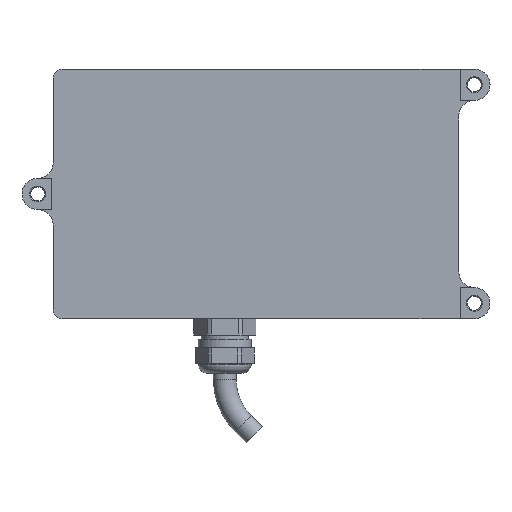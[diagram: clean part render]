
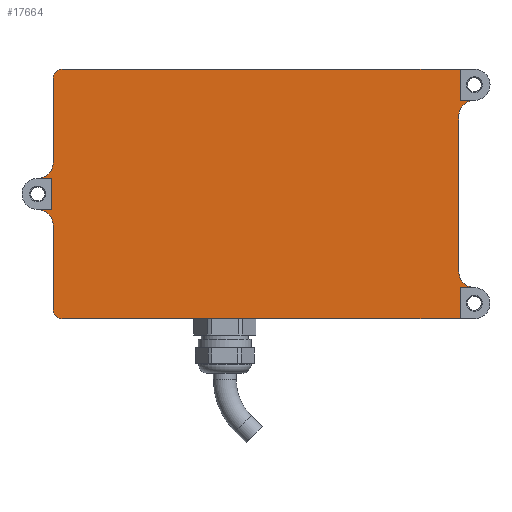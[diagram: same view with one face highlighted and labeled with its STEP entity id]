
A CAD part, left-side view. The second image highlights one B-rep face of the part: STEP entity #17664.
In plain terms, the highlighted planar face has unit normal (-1, 0, 0) as drawn and (0, 0, 1) by its records, which use the part's own axes.
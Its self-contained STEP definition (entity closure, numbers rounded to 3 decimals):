
#59 = CARTESIAN_POINT ( 'NONE',  ( -80., 135., 34.2 ) ) ;
#67 = DIRECTION ( 'NONE',  ( 0., -1., 0. ) ) ;
#108 = CARTESIAN_POINT ( 'NONE',  ( -70., 0., 34.2 ) ) ;
#109 = DIRECTION ( 'NONE',  ( -1., 0., 0. ) ) ;
#133 = CARTESIAN_POINT ( 'NONE',  ( 0., 135., 34.2 ) ) ;
#134 = DIRECTION ( 'NONE',  ( 0., 1., 0. ) ) ;
#138 = CARTESIAN_POINT ( 'NONE',  ( 0., 130., 34.2 ) ) ;
#157 = DIRECTION ( 'NONE',  ( 1., 0., 0. ) ) ;
#164 = CARTESIAN_POINT ( 'NONE',  ( -80., 130., 34.2 ) ) ;
#165 = DIRECTION ( 'NONE',  ( 1., 0., 0. ) ) ;
#188 = CARTESIAN_POINT ( 'NONE',  ( -77., 127., 34.2 ) ) ;
#189 = DIRECTION ( 'NONE',  ( 0., 0., 1. ) ) ;
#190 = DIRECTION ( 'NONE',  ( -1., 0., 0. ) ) ;
#202 = CARTESIAN_POINT ( 'NONE',  ( -3., 127., 34.2 ) ) ;
#203 = DIRECTION ( 'NONE',  ( 0., 0., 1. ) ) ;
#204 = DIRECTION ( 'NONE',  ( -1., 0., 0. ) ) ;
#218 = CARTESIAN_POINT ( 'NONE',  ( -15., -5., 34.2 ) ) ;
#220 = DIRECTION ( 'NONE',  ( 0., 0., 1. ) ) ;
#222 = DIRECTION ( 'NONE',  ( -1., 0., 0. ) ) ;
#238 = CARTESIAN_POINT ( 'NONE',  ( -65., -5., 34.2 ) ) ;
#240 = DIRECTION ( 'NONE',  ( 0., 0., 1. ) ) ;
#241 = DIRECTION ( 'NONE',  ( -1., 0., 0. ) ) ;
#265 = CARTESIAN_POINT ( 'NONE',  ( -30., 135., 34.2 ) ) ;
#266 = DIRECTION ( 'NONE',  ( 0., 0., 1. ) ) ;
#268 = DIRECTION ( 'NONE',  ( -1., 0., 0. ) ) ;
#297 = CARTESIAN_POINT ( 'NONE',  ( -50., 135., 34.2 ) ) ;
#298 = DIRECTION ( 'NONE',  ( 0., 0., 1. ) ) ;
#300 = DIRECTION ( 'NONE',  ( -1., 0., 0. ) ) ;
#351 = DIRECTION ( 'NONE',  ( 0., 1., 0. ) ) ;
#353 = CARTESIAN_POINT ( 'NONE',  ( -10., -0.4, 34.2 ) ) ;
#354 = DIRECTION ( 'NONE',  ( 1., 0., 0. ) ) ;
#356 = CARTESIAN_POINT ( 'NONE',  ( -10., -5., 34.2 ) ) ;
#362 = CARTESIAN_POINT ( 'NONE',  ( -35., 135., 34.2 ) ) ;
#365 = CARTESIAN_POINT ( 'NONE',  ( -45., 130.4, 34.2 ) ) ;
#367 = CARTESIAN_POINT ( 'NONE',  ( -45., 135., 34.2 ) ) ;
#368 = DIRECTION ( 'NONE',  ( 0., -1., 0. ) ) ;
#370 = CARTESIAN_POINT ( 'NONE',  ( -80., -0.4, 34.2 ) ) ;
#372 = DIRECTION ( 'NONE',  ( -1., 0., 0. ) ) ;
#375 = DIRECTION ( 'NONE',  ( 0., 1., 0. ) ) ;
#378 = DIRECTION ( 'NONE',  ( 0., -1., 0. ) ) ;
#380 = DIRECTION ( 'NONE',  ( 1., 0., 0. ) ) ;
#381 = CARTESIAN_POINT ( 'NONE',  ( -70., -5., 34.2 ) ) ;
#5241 = CARTESIAN_POINT ( 'NONE',  ( -35., -0.4, 34.2 ) ) ;
#5245 = PLANE ( 'NONE',  #12939 ) ;
#5247 = DIRECTION ( 'NONE',  ( 0., 0., -1. ) ) ;
#5248 = DIRECTION ( 'NONE',  ( -1., 0., 0. ) ) ;
#7405 = CARTESIAN_POINT ( 'NONE',  ( -15., 0., 34.2 ) ) ;
#7420 = CARTESIAN_POINT ( 'NONE',  ( 0., -0.4, 34.2 ) ) ;
#7426 = CARTESIAN_POINT ( 'NONE',  ( -45., 135., 34.2 ) ) ;
#7427 = CARTESIAN_POINT ( 'NONE',  ( -77., 130., 34.2 ) ) ;
#7437 = CARTESIAN_POINT ( 'NONE',  ( -35., 135., 34.2 ) ) ;
#7450 = CARTESIAN_POINT ( 'NONE',  ( -80., 127., 34.2 ) ) ;
#9051 = CARTESIAN_POINT ( 'NONE',  ( -80., -0.4, 34.2 ) ) ;
#9484 = CARTESIAN_POINT ( 'NONE',  ( -65., 0., 34.2 ) ) ;
#9505 = CARTESIAN_POINT ( 'NONE',  ( -30., 130., 34.2 ) ) ;
#9508 = CARTESIAN_POINT ( 'NONE',  ( 0., 127., 34.2 ) ) ;
#9519 = CARTESIAN_POINT ( 'NONE',  ( -35., 130.4, 34.2 ) ) ;
#9520 = CARTESIAN_POINT ( 'NONE',  ( -70., -5., 34.2 ) ) ;
#9533 = CARTESIAN_POINT ( 'NONE',  ( -70., -0.4, 34.2 ) ) ;
#9534 = CARTESIAN_POINT ( 'NONE',  ( -50., 130., 34.2 ) ) ;
#9546 = CARTESIAN_POINT ( 'NONE',  ( -10., -0.4, 34.2 ) ) ;
#9569 = CARTESIAN_POINT ( 'NONE',  ( -3., 130., 34.2 ) ) ;
#9575 = CARTESIAN_POINT ( 'NONE',  ( -10., -5., 34.2 ) ) ;
#9582 = CARTESIAN_POINT ( 'NONE',  ( -45., 130.4, 34.2 ) ) ;
#9811 = VERTEX_POINT ( 'NONE', #7405 ) ;
#9835 = VERTEX_POINT ( 'NONE', #7420 ) ;
#9854 = VERTEX_POINT ( 'NONE', #7426 ) ;
#9861 = VERTEX_POINT ( 'NONE', #7427 ) ;
#9883 = VERTEX_POINT ( 'NONE', #7437 ) ;
#9914 = VERTEX_POINT ( 'NONE', #7450 ) ;
#12939 = AXIS2_PLACEMENT_3D ( 'NONE', #5241, #5247, #5248 ) ;
#13034 = AXIS2_PLACEMENT_3D ( 'NONE', #188, #189, #190 ) ;
#13036 = AXIS2_PLACEMENT_3D ( 'NONE', #202, #203, #204 ) ;
#13038 = AXIS2_PLACEMENT_3D ( 'NONE', #218, #220, #222 ) ;
#13040 = AXIS2_PLACEMENT_3D ( 'NONE', #238, #240, #241 ) ;
#13042 = AXIS2_PLACEMENT_3D ( 'NONE', #265, #266, #268 ) ;
#13044 = AXIS2_PLACEMENT_3D ( 'NONE', #297, #298, #300 ) ;
#15162 = FACE_OUTER_BOUND ( 'NONE', #18532, .T. ) ;
#15588 = LINE ( 'NONE', #59, #15598 ) ;
#15598 = VECTOR ( 'NONE', #67, 1000. ) ;
#15656 = LINE ( 'NONE', #108, #15662 ) ;
#15662 = VECTOR ( 'NONE', #109, 1000. ) ;
#15700 = LINE ( 'NONE', #133, #15704 ) ;
#15704 = VECTOR ( 'NONE', #134, 1000. ) ;
#15714 = LINE ( 'NONE', #138, #15736 ) ;
#15736 = VECTOR ( 'NONE', #157, 1000. ) ;
#15746 = LINE ( 'NONE', #164, #15752 ) ;
#15752 = VECTOR ( 'NONE', #165, 1000. ) ;
#15766 = CIRCLE ( 'NONE', #13034, 3. ) ;
#15770 = CIRCLE ( 'NONE', #13036, 3. ) ;
#15776 = CIRCLE ( 'NONE', #13038, 5. ) ;
#15796 = CIRCLE ( 'NONE', #13040, 5. ) ;
#15800 = CIRCLE ( 'NONE', #13042, 5. ) ;
#15838 = CIRCLE ( 'NONE', #13044, 5. ) ;
#15888 = LINE ( 'NONE', #356, #15896 ) ;
#15892 = LINE ( 'NONE', #353, #15900 ) ;
#15894 = LINE ( 'NONE', #365, #15908 ) ;
#15896 = VECTOR ( 'NONE', #351, 1000. ) ;
#15898 = LINE ( 'NONE', #362, #15904 ) ;
#15900 = VECTOR ( 'NONE', #354, 1000. ) ;
#15902 = LINE ( 'NONE', #367, #15912 ) ;
#15904 = VECTOR ( 'NONE', #368, 1000. ) ;
#15906 = LINE ( 'NONE', #370, #15916 ) ;
#15908 = VECTOR ( 'NONE', #372, 1000. ) ;
#15912 = VECTOR ( 'NONE', #375, 1000. ) ;
#15914 = LINE ( 'NONE', #381, #15924 ) ;
#15916 = VECTOR ( 'NONE', #380, 1000. ) ;
#15924 = VECTOR ( 'NONE', #378, 1000. ) ;
#17664 = ADVANCED_FACE ( 'NONE', ( #15162 ), #5245, .F. ) ;
#17810 = EDGE_CURVE ( 'NONE', #9914, #18583, #15588, .T. ) ;
#17829 = EDGE_CURVE ( 'NONE', #9811, #21123, #15656, .T. ) ;
#17842 = EDGE_CURVE ( 'NONE', #9835, #21148, #15700, .T. ) ;
#17850 = EDGE_CURVE ( 'NONE', #21145, #21213, #15714, .T. ) ;
#17854 = EDGE_CURVE ( 'NONE', #9861, #21174, #15746, .T. ) ;
#17861 = EDGE_CURVE ( 'NONE', #9861, #9914, #15766, .T. ) ;
#17863 = EDGE_CURVE ( 'NONE', #21148, #21213, #15770, .T. ) ;
#17866 = EDGE_CURVE ( 'NONE', #21219, #9811, #15776, .T. ) ;
#17870 = EDGE_CURVE ( 'NONE', #21123, #21160, #15796, .T. ) ;
#17876 = EDGE_CURVE ( 'NONE', #9883, #21145, #15800, .T. ) ;
#17883 = EDGE_CURVE ( 'NONE', #21174, #9854, #15838, .T. ) ;
#17914 = EDGE_CURVE ( 'NONE', #21219, #21193, #15888, .T. ) ;
#17917 = EDGE_CURVE ( 'NONE', #21193, #9835, #15892, .T. ) ;
#17919 = EDGE_CURVE ( 'NONE', #9883, #21159, #15898, .T. ) ;
#17921 = EDGE_CURVE ( 'NONE', #21159, #21226, #15894, .T. ) ;
#17923 = EDGE_CURVE ( 'NONE', #21226, #9854, #15902, .T. ) ;
#17925 = EDGE_CURVE ( 'NONE', #18583, #21173, #15906, .T. ) ;
#17929 = EDGE_CURVE ( 'NONE', #21173, #21160, #15914, .T. ) ;
#18532 = EDGE_LOOP ( 'NONE', ( #23741, #23742, #23743, #23744, #23745, #23746, #23747, #23748, #23749, #23750, #23751, #23752, #23753, #23754, #23755, #23756, #23757, #23758 ) ) ;
#18583 = VERTEX_POINT ( 'NONE', #9051 ) ;
#21123 = VERTEX_POINT ( 'NONE', #9484 ) ;
#21145 = VERTEX_POINT ( 'NONE', #9505 ) ;
#21148 = VERTEX_POINT ( 'NONE', #9508 ) ;
#21159 = VERTEX_POINT ( 'NONE', #9519 ) ;
#21160 = VERTEX_POINT ( 'NONE', #9520 ) ;
#21173 = VERTEX_POINT ( 'NONE', #9533 ) ;
#21174 = VERTEX_POINT ( 'NONE', #9534 ) ;
#21193 = VERTEX_POINT ( 'NONE', #9546 ) ;
#21213 = VERTEX_POINT ( 'NONE', #9569 ) ;
#21219 = VERTEX_POINT ( 'NONE', #9575 ) ;
#21226 = VERTEX_POINT ( 'NONE', #9582 ) ;
#23741 = ORIENTED_EDGE ( 'NONE', *, *, #17914, .T. ) ;
#23742 = ORIENTED_EDGE ( 'NONE', *, *, #17917, .T. ) ;
#23743 = ORIENTED_EDGE ( 'NONE', *, *, #17842, .T. ) ;
#23744 = ORIENTED_EDGE ( 'NONE', *, *, #17863, .T. ) ;
#23745 = ORIENTED_EDGE ( 'NONE', *, *, #17850, .F. ) ;
#23746 = ORIENTED_EDGE ( 'NONE', *, *, #17876, .F. ) ;
#23747 = ORIENTED_EDGE ( 'NONE', *, *, #17919, .T. ) ;
#23748 = ORIENTED_EDGE ( 'NONE', *, *, #17921, .T. ) ;
#23749 = ORIENTED_EDGE ( 'NONE', *, *, #17923, .T. ) ;
#23750 = ORIENTED_EDGE ( 'NONE', *, *, #17883, .F. ) ;
#23751 = ORIENTED_EDGE ( 'NONE', *, *, #17854, .F. ) ;
#23752 = ORIENTED_EDGE ( 'NONE', *, *, #17861, .T. ) ;
#23753 = ORIENTED_EDGE ( 'NONE', *, *, #17810, .T. ) ;
#23754 = ORIENTED_EDGE ( 'NONE', *, *, #17925, .T. ) ;
#23755 = ORIENTED_EDGE ( 'NONE', *, *, #17929, .T. ) ;
#23756 = ORIENTED_EDGE ( 'NONE', *, *, #17870, .F. ) ;
#23757 = ORIENTED_EDGE ( 'NONE', *, *, #17829, .F. ) ;
#23758 = ORIENTED_EDGE ( 'NONE', *, *, #17866, .F. ) ;
